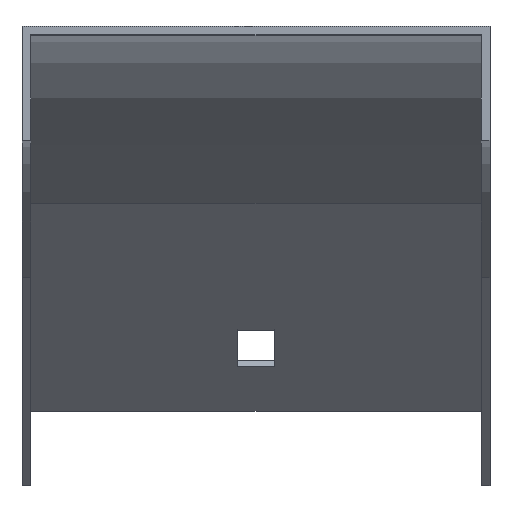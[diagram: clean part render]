
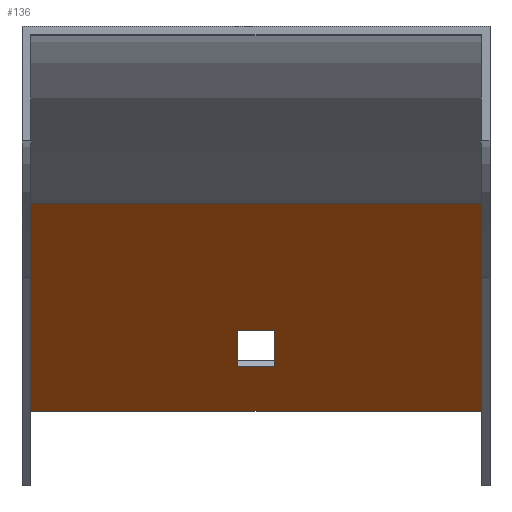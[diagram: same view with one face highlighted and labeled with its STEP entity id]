
A CAD part, top view. The second image highlights one B-rep face of the part: STEP entity #136.
In plain terms, the highlighted planar face has unit normal (0, -0.707, 0.707).
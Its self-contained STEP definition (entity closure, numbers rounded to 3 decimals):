
#35 = CARTESIAN_POINT ( 'NONE',  ( -3.25, -53.091, -144.553 ) ) ;
#38 = VECTOR ( 'NONE', #342, 1000. ) ;
#59 = VERTEX_POINT ( 'NONE', #489 ) ;
#66 = VECTOR ( 'NONE', #754, 1000. ) ;
#67 = EDGE_CURVE ( 'NONE', #486, #182, #750, .T. ) ;
#69 = EDGE_CURVE ( 'NONE', #224, #341, #630, .T. ) ;
#88 = EDGE_CURVE ( 'NONE', #486, #59, #228, .T. ) ;
#112 = PLANE ( 'NONE',  #429 ) ;
#121 = VERTEX_POINT ( 'NONE', #695 ) ;
#122 = ORIENTED_EDGE ( 'NONE', *, *, #507, .T. ) ;
#124 = LINE ( 'NONE', #407, #297 ) ;
#136 = ADVANCED_FACE ( 'NONE', ( #779, #708 ), #112, .T. ) ;
#148 = CARTESIAN_POINT ( 'NONE',  ( 41., -67.234, -158.695 ) ) ;
#182 = VERTEX_POINT ( 'NONE', #775 ) ;
#188 = ORIENTED_EDGE ( 'NONE', *, *, #363, .T. ) ;
#205 = ORIENTED_EDGE ( 'NONE', *, *, #674, .T. ) ;
#206 = DIRECTION ( 'NONE',  ( -1., 0., 0. ) ) ;
#218 = CARTESIAN_POINT ( 'NONE',  ( -3.25, -30.789, -122.251 ) ) ;
#224 = VERTEX_POINT ( 'NONE', #587 ) ;
#228 = LINE ( 'NONE', #503, #66 ) ;
#232 = CARTESIAN_POINT ( 'NONE',  ( 39.5, -67.234, -158.695 ) ) ;
#263 = LINE ( 'NONE', #742, #38 ) ;
#297 = VECTOR ( 'NONE', #552, 1000. ) ;
#324 = EDGE_CURVE ( 'NONE', #341, #121, #726, .T. ) ;
#331 = LINE ( 'NONE', #449, #386 ) ;
#341 = VERTEX_POINT ( 'NONE', #35 ) ;
#342 = DIRECTION ( 'NONE',  ( 0., 0.707, 0.707 ) ) ;
#363 = EDGE_CURVE ( 'NONE', #59, #743, #124, .T. ) ;
#386 = VECTOR ( 'NONE', #388, 1000. ) ;
#388 = DIRECTION ( 'NONE',  ( 0., -0.707, -0.707 ) ) ;
#399 = DIRECTION ( 'NONE',  ( 1., 0., 0. ) ) ;
#405 = VERTEX_POINT ( 'NONE', #561 ) ;
#407 = CARTESIAN_POINT ( 'NONE',  ( 41., -30.789, -122.251 ) ) ;
#420 = DIRECTION ( 'NONE',  ( -1., 0., 0. ) ) ;
#429 = AXIS2_PLACEMENT_3D ( 'NONE', #529, #524, #699 ) ;
#447 = ORIENTED_EDGE ( 'NONE', *, *, #690, .F. ) ;
#449 = CARTESIAN_POINT ( 'NONE',  ( 3.25, -30.789, -122.251 ) ) ;
#454 = VECTOR ( 'NONE', #568, 1000. ) ;
#486 = VERTEX_POINT ( 'NONE', #232 ) ;
#489 = CARTESIAN_POINT ( 'NONE',  ( 39.5, -30.789, -122.251 ) ) ;
#503 = CARTESIAN_POINT ( 'NONE',  ( 39.5, -30.789, -122.251 ) ) ;
#507 = EDGE_CURVE ( 'NONE', #121, #405, #331, .T. ) ;
#516 = CARTESIAN_POINT ( 'NONE',  ( 41., -53.091, -144.553 ) ) ;
#524 = DIRECTION ( 'NONE',  ( 0., -0.707, 0.707 ) ) ;
#529 = CARTESIAN_POINT ( 'NONE',  ( 41., -30.789, -122.251 ) ) ;
#538 = CARTESIAN_POINT ( 'NONE',  ( 41., -59.455, -150.917 ) ) ;
#544 = LINE ( 'NONE', #538, #804 ) ;
#552 = DIRECTION ( 'NONE',  ( -1., 0., 0. ) ) ;
#553 = ORIENTED_EDGE ( 'NONE', *, *, #324, .T. ) ;
#561 = CARTESIAN_POINT ( 'NONE',  ( 3.25, -59.455, -150.917 ) ) ;
#568 = DIRECTION ( 'NONE',  ( 0., 0.707, 0.707 ) ) ;
#587 = CARTESIAN_POINT ( 'NONE',  ( -3.25, -59.455, -150.917 ) ) ;
#612 = EDGE_LOOP ( 'NONE', ( #447, #823, #714, #188 ) ) ;
#622 = CARTESIAN_POINT ( 'NONE',  ( -39.5, -30.789, -122.251 ) ) ;
#630 = LINE ( 'NONE', #218, #454 ) ;
#674 = EDGE_CURVE ( 'NONE', #405, #224, #544, .T. ) ;
#690 = EDGE_CURVE ( 'NONE', #182, #743, #263, .T. ) ;
#695 = CARTESIAN_POINT ( 'NONE',  ( 3.25, -53.091, -144.553 ) ) ;
#699 = DIRECTION ( 'NONE',  ( 0., -0.707, -0.707 ) ) ;
#708 = FACE_BOUND ( 'NONE', #776, .T. ) ;
#713 = VECTOR ( 'NONE', #399, 1000. ) ;
#714 = ORIENTED_EDGE ( 'NONE', *, *, #88, .T. ) ;
#726 = LINE ( 'NONE', #516, #713 ) ;
#742 = CARTESIAN_POINT ( 'NONE',  ( -39.5, -30.789, -122.251 ) ) ;
#743 = VERTEX_POINT ( 'NONE', #622 ) ;
#750 = LINE ( 'NONE', #148, #824 ) ;
#754 = DIRECTION ( 'NONE',  ( 0., 0.707, 0.707 ) ) ;
#775 = CARTESIAN_POINT ( 'NONE',  ( -39.5, -67.234, -158.695 ) ) ;
#776 = EDGE_LOOP ( 'NONE', ( #205, #797, #553, #122 ) ) ;
#779 = FACE_OUTER_BOUND ( 'NONE', #612, .T. ) ;
#797 = ORIENTED_EDGE ( 'NONE', *, *, #69, .T. ) ;
#804 = VECTOR ( 'NONE', #206, 1000. ) ;
#823 = ORIENTED_EDGE ( 'NONE', *, *, #67, .F. ) ;
#824 = VECTOR ( 'NONE', #420, 1000. ) ;
